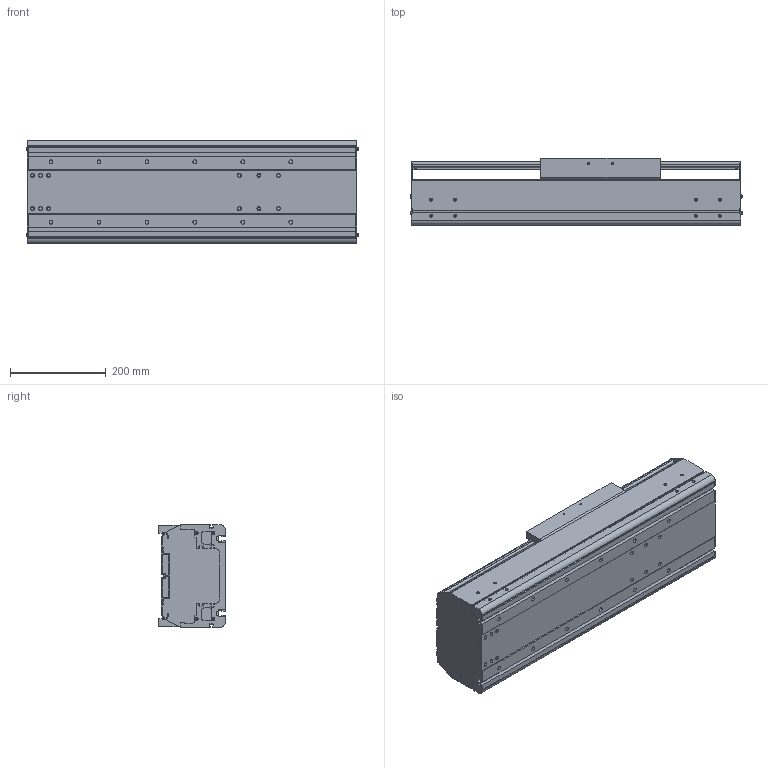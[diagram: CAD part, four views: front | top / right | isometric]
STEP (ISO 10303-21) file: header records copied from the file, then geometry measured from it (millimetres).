
FILE_DESCRIPTION((''),'2;1');
FILE_NAME('BE60J-ST-M_N-20_IGS_PRT','2017-06-18T',(' '),(''),'PRO/ENGINEER BY PARAMETRIC TECHNOLOGY CORPORATION, 2015030','PRO/ENGINEER BY PARAMETRIC TECHNOLOGY CORPORATION, 2015030','');
FILE_SCHEMA(('CONFIG_CONTROL_DESIGN'));
Length unit declared in the file: millimetre
Products named in the file (1): BE60J-ST-M_N-20_IGS_PRT
Bounding box: 692.4 x 140 x 214 mm (x, y, z)
Volume: 5858947.2 mm3; surface area: 1612371.5 mm2
Topology: 2 solids, 108 shells, 1287 faces, 3500 edges, 2325 vertices
Faces by surface type: cylinder 610, plane 557, cone 72, torus 24, sphere 24
Entity records: 42069 total; most frequent: CARTESIAN_POINT 8994, DIRECTION 7016, ORIENTED_EDGE 6524, EDGE_CURVE 3450, AXIS2_PLACEMENT_3D 2580, VERTEX_POINT 2324, VECTOR 1856, LINE 1856
